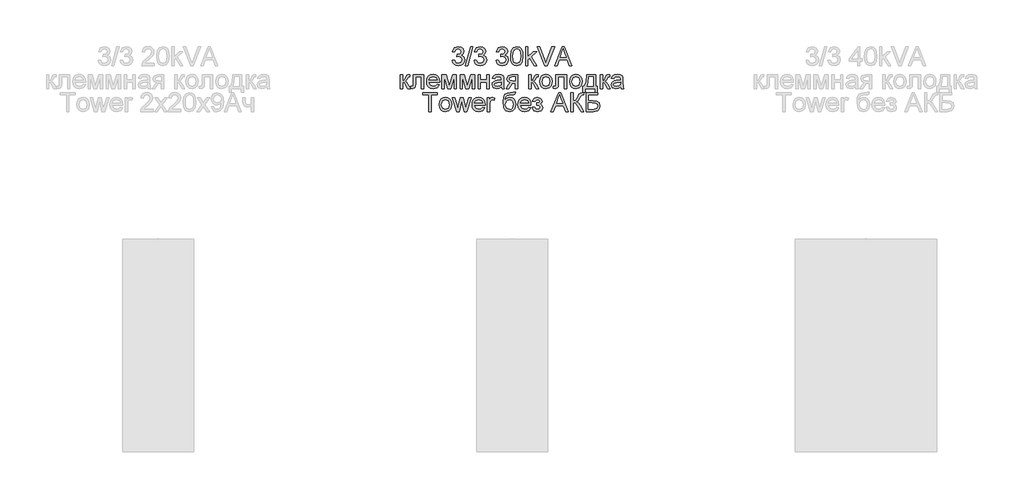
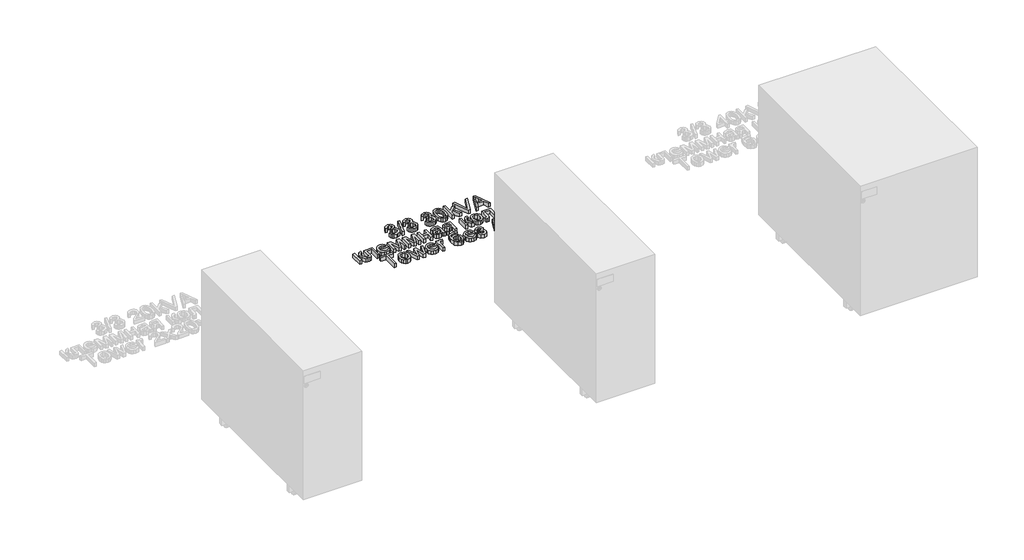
# One storey, part 31 of 74: 1 proxy.
"""IFC4 building model written with IfcOpenShell, lengths in millimetres."""

from ifc_helpers import new_model, si_unit, origin, origin_with_axes, place, context, project, spatial, polyline, outline, extrude, element, save

model = new_model("IFC4")

# Units and contexts
model_context = context("Model", 3, world=origin())
ifc_project = project(units=[si_unit("LENGTHUNIT", "METRE", prefix="MILLI")], contexts=[model_context])

# Site, building, storey
site = spatial("IfcSite", under=ifc_project)
building = spatial("IfcBuilding", under=site)
storey = spatial("IfcBuildingStorey", under=building, Name="Этаж 01", Elevation=0.0)

# Proxy
placement = place(None, origin())
element("IfcBuildingElementProxy", 1, Name="80 мм Arial", ObjectType="80 мм Arial", at=placement, inside=storey, context=model_context, shape_type="SweptSolid", body=[
    extrude(outline(polyline([(19098.3137414, -18752.4422861), (19108.3593724, -18751.1865822), (19113.9021278, -18761.7619633), (19124.2714949, -18764.9993249), (19136.475367, -18760.5455002), (19141.0076732, -18749.5188505), (19136.5146077, -18739.129863), (19125.0955506, -18735.0193948), (19118.0518367, -18736.1181357), (19119.1701979, -18726.0725047), (19120.7790685, -18726.1902269), (19132.1785053, -18723.3060321), (19137.2405615, -18714.4376235), (19133.5715518, -18706.5796641), (19124.114532, -18703.4698349), (19114.5397899, -18706.6090946), (19109.6150762, -18716.0268737), (19099.5694452, -18714.7711698), (19107.7903816, -18699.0160102), (19123.7613652, -18693.4242039), (19135.8769456, -18696.1808663), (19144.3529468, -18703.7150896), (19147.2861926, -18713.8490123), (19144.5000996, -18723.1098284), (19136.2595429, -18729.7611348), (19147.2077111, -18736.6282654), (19151.0533042, -18749.6954339), (19149.1305076, -18759.4860001), (19143.3621179, -18767.6676956), (19134.6555774, -18773.2006408), (19123.9183282, -18775.0449559), (19114.2062435, -18773.470421), (19106.2992332, -18768.7468161), (19100.8006236, -18761.5216138), (19098.3137414, -18752.4422861)])), origin_with_axes(), (0.0, 0.0, 1.0), 20.0),
    extrude(outline(polyline([(19154.8204158, -18773.789252), (19177.4230856, -18693.4242039), (19186.487698, -18693.4242039), (19163.8850282, -18773.789252), (19154.8204158, -18773.789252)])), origin_with_axes(), (0.0, 0.0, 1.0), 20.0),
    extrude(outline(polyline([(19191.2358282, -18752.4422861), (19201.2814593, -18751.1865822), (19206.8242147, -18761.7619633), (19217.1935818, -18764.9993249), (19229.3974539, -18760.5455002), (19233.9297601, -18749.5188505), (19229.4366946, -18739.129863), (19218.0176375, -18735.0193948), (19210.9739236, -18736.1181357), (19212.0922848, -18726.0725047), (19213.7011554, -18726.1902269), (19225.1005922, -18723.3060321), (19230.1626484, -18714.4376235), (19226.4936387, -18706.5796641), (19217.0366188, -18703.4698349), (19207.4618768, -18706.6090946), (19202.5371631, -18716.0268737), (19192.4915321, -18714.7711698), (19200.7124684, -18699.0160102), (19216.6834521, -18693.4242039), (19228.7990325, -18696.1808663), (19237.2750337, -18703.7150896), (19240.2082794, -18713.8490123), (19237.4221865, -18723.1098284), (19229.1816298, -18729.7611348), (19240.129798, -18736.6282654), (19243.9753911, -18749.6954339), (19242.0525945, -18759.4860001), (19236.2842048, -18767.6676956), (19227.5776643, -18773.2006408), (19216.8404151, -18775.0449559), (19207.1283304, -18773.470421), (19199.2213201, -18768.7468161), (19193.7227105, -18761.5216138), (19191.2358282, -18752.4422861)])), origin_with_axes(), (0.0, 0.0, 1.0), 20.0),
    extrude(outline(polyline([(19284.1579151, -18752.4422861), (19294.2035461, -18751.1865822), (19299.7463015, -18761.7619633), (19310.1156687, -18764.9993249), (19322.3195408, -18760.5455002), (19326.8518469, -18749.5188505), (19322.3587815, -18739.129863), (19310.9397244, -18735.0193948), (19303.8960104, -18736.1181357), (19305.0143717, -18726.0725047), (19306.6232423, -18726.1902269), (19318.0226791, -18723.3060321), (19323.0847353, -18714.4376235), (19319.4157256, -18706.5796641), (19309.9587057, -18703.4698349), (19300.3839637, -18706.6090946), (19295.45925, -18716.0268737), (19285.413619, -18714.7711698), (19293.6345553, -18699.0160102), (19309.605539, -18693.4242039), (19321.7211194, -18696.1808663), (19330.1971206, -18703.7150896), (19333.1303663, -18713.8490123), (19330.3442734, -18723.1098284), (19322.1037167, -18729.7611348), (19333.0518848, -18736.6282654), (19336.897478, -18749.6954339), (19334.9746814, -18759.4860001), (19329.2062917, -18767.6676956), (19320.4997512, -18773.2006408), (19309.762502, -18775.0449559), (19300.0504173, -18773.470421), (19292.143407, -18768.7468161), (19286.6447974, -18761.5216138), (19284.1579151, -18752.4422861)])), origin_with_axes(), (0.0, 0.0, 1.0), 20.0),
    extrude(outline(polyline([(19345.6874051, -18734.2542003), (19348.6402712, -18711.1315906), (19357.410578, -18697.7995471), (19372.0571865, -18693.4242039), (19383.7901696, -18696.0140932), (19391.8933837, -18703.4796451), (19396.6022732, -18715.3695912), (19398.4269679, -18734.2542003), (19395.5035323, -18757.2787081), (19386.7626561, -18770.6401821), (19372.0571865, -18775.0449559), (19361.619148, -18773.1319695), (19353.6925173, -18767.3930104), (19347.6886832, -18753.800997), (19345.6874051, -18734.2542003)]), holes=[polyline([(19355.7330361, -18734.2345799), (19356.9102585, -18750.0363379), (19360.4419257, -18759.1818843), (19372.0571865, -18764.9993249), (19383.6724474, -18759.1622639), (19387.2041145, -18750.0118124), (19388.3813369, -18734.2345799), (19387.2433553, -18718.7884412), (19383.8294104, -18709.5717709), (19378.5809606, -18704.9953189), (19371.9394643, -18703.4698349), (19360.5988886, -18708.8458171), (19356.9494992, -18718.6363833), (19355.7330361, -18734.2345799)])]), origin_with_axes(), (0.0, 0.0, 1.0), 20.0),
    extrude(outline(polyline([(19409.7283028, -18773.789252), (19409.7283028, -18693.4242039), (19419.7739338, -18693.4242039), (19419.7739338, -18736.608645), (19442.2981221, -18714.7711698), (19456.1893463, -18714.7711698), (19433.3904728, -18736.8833303), (19457.4450501, -18773.789252), (19445.712067, -18773.789252), (19426.1897958, -18743.8681831), (19419.7739338, -18750.0878413), (19419.7739338, -18773.789252), (19409.7283028, -18773.789252)])), origin_with_axes(), (0.0, 0.0, 1.0), 20.0),
    extrude(outline(polyline([(19532.2182919, -18773.789252), (19564.2976019, -18693.4242039), (19572.8520846, -18693.4242039), (19604.9313946, -18773.789252), (19594.3167727, -18773.789252), (19585.1148177, -18748.6751745), (19552.0152484, -18748.6751745), (19542.8329138, -18773.789252), (19532.2182919, -18773.789252)]), holes=[polyline([(19555.7038785, -18738.6295435), (19581.445808, -18738.6295435), (19574.2058903, -18718.8718278), (19568.5748432, -18703.4698349), (19563.5716481, -18717.145235), (19555.7038785, -18738.6295435)])]), origin_with_axes(), (0.0, 0.0, 1.0), 20.0),
    extrude(outline(polyline([(19491.2313326, -18773.789252), (19459.2501245, -18693.4242039), (19470.0020889, -18693.4242039), (19491.4079159, -18751.3239249), (19495.7440184, -18764.3714729), (19500.0212597, -18751.3239249), (19521.4859479, -18693.4242039), (19532.2379123, -18693.4242039), (19501.6105099, -18773.789252), (19491.2313326, -18773.789252)])), origin_with_axes(), (0.0, 0.0, 1.0), 20.0),
    extrude(outline(polyline([(18933.1886815, -18812.3510241), (18978.3940211, -18812.3510241), (18978.3940211, -18871.3102452), (18968.3483901, -18871.3102452), (18968.3483901, -18822.3966551), (18943.2343126, -18822.3966551), (18943.2343126, -18850.5518905), (18942.5574097, -18863.5405774), (18938.839349, -18869.0244717), (18930.0494219, -18871.3691063), (18921.8873467, -18870.8589766), (18921.8873467, -18861.3234753), (18926.3804121, -18861.3234753), (18930.9225285, -18860.7054335), (18932.737413, -18858.7433962), (18933.1886815, -18849.9828996), (18933.1886815, -18812.3510241)])), origin_with_axes(), (0.0, 0.0, 1.0), 20.0),
    extrude(outline(polyline([(18879.1934148, -18812.3510241), (18889.2390459, -18812.3510241), (18889.2390459, -18837.4651016), (18895.9688338, -18835.6600273), (18901.4821587, -18825.1435073), (18906.0635158, -18816.0690848), (18910.1053126, -18813.1162186), (18917.4531423, -18812.3510241), (18919.3759389, -18812.3510241), (18919.3759389, -18822.4555162), (18916.6683274, -18822.3966551), (18911.7632341, -18823.4561553), (18908.3100485, -18830.068221), (18904.2584414, -18837.219847), (18898.5783434, -18840.7220836), (18904.9157239, -18844.6314429), (18911.1353822, -18852.8670945), (18921.8873467, -18871.3691063), (18910.4682895, -18871.3691063), (18899.9321492, -18853.259502), (18894.6346485, -18845.5977463), (18889.2390459, -18843.743621), (18889.2390459, -18871.3691063), (18879.1934148, -18871.3691063), (18879.1934148, -18812.3510241)])), origin_with_axes(), (0.0, 0.0, 1.0), 20.0),
    extrude(outline(polyline([(19034.7829733, -18853.789252), (19044.6324006, -18855.0449559), (19035.4206355, -18868.0140225), (19018.2626192, -18872.6248102), (19006.4756801, -18870.6357949), (18997.4061626, -18864.6687489), (18991.6230577, -18855.1111747), (18989.695356, -18842.3505745), (18991.642678, -18829.1607787), (18997.4846441, -18819.2966362), (19006.4315342, -18813.1456492), (19017.6936284, -18811.0953202), (19028.6050084, -18813.1407441), (19037.3238116, -18819.2770158), (19043.0406979, -18829.121538), (19044.9463266, -18842.2917134), (19044.8874655, -18844.9993249), (18999.740987, -18844.9993249), (19005.5191869, -18858.046873), (19018.4588229, -18862.5791792), (19028.3082502, -18860.4797992), (19034.7829733, -18853.789252)]), holes=[polyline([(18999.740987, -18834.9536939), (19034.9006956, -18834.9536939), (19030.8785191, -18825.8498408), (19017.6543876, -18821.1409512), (19005.2837424, -18824.8982527), (18999.740987, -18834.9536939)])]), origin_with_axes(), (0.0, 0.0, 1.0), 20.0),
    extrude(outline(polyline([(19054.9919576, -18812.3510241), (19072.2775063, -18812.3510241), (19085.5997396, -18859.5968825), (19099.9618527, -18812.3510241), (19116.5214476, -18812.3510241), (19116.5214476, -18871.3691063), (19106.4758166, -18871.3691063), (19106.4758166, -18823.8485627), (19092.035222, -18871.3691063), (19078.8503313, -18871.3691063), (19065.0375886, -18821.5725994), (19065.0375886, -18871.3691063), (19054.9919576, -18871.3691063), (19054.9919576, -18812.3510241)])), origin_with_axes(), (0.0, 0.0, 1.0), 20.0),
    extrude(outline(polyline([(19131.5898941, -18812.3510241), (19148.8754428, -18812.3510241), (19162.1976761, -18859.5968825), (19176.5597892, -18812.3510241), (19193.1193841, -18812.3510241), (19193.1193841, -18871.3691063), (19183.073753, -18871.3691063), (19183.073753, -18823.8485627), (19168.6331585, -18871.3691063), (19155.4482678, -18871.3691063), (19141.6355251, -18821.5725994), (19141.6355251, -18871.3691063), (19131.5898941, -18871.3691063), (19131.5898941, -18812.3510241)])), origin_with_axes(), (0.0, 0.0, 1.0), 20.0),
    extrude(outline(polyline([(19208.1878306, -18812.3510241), (19218.2334616, -18812.3510241), (19218.2334616, -18834.9536939), (19244.603243, -18834.9536939), (19244.603243, -18812.3510241), (19254.648874, -18812.3510241), (19254.648874, -18871.3691063), (19244.603243, -18871.3691063), (19244.603243, -18844.9993249), (19218.2334616, -18844.9993249), (19218.2334616, -18871.3691063), (19208.1878306, -18871.3691063), (19208.1878306, -18812.3510241)])), origin_with_axes(), (0.0, 0.0, 1.0), 20.0),
    extrude(outline(polyline([(19307.3884369, -18863.834883), (19297.6469216, -18870.6431525), (19286.885147, -18872.6248102), (19272.2973996, -18867.8570595), (19267.2059128, -18855.6728078), (19269.1287094, -18847.7265567), (19274.1809554, -18841.9581671), (19281.2148592, -18838.6619444), (19289.9066844, -18837.1511757), (19307.3295757, -18833.69799), (19307.3884369, -18831.4612675), (19304.6219643, -18824.0447664), (19293.5168331, -18821.1409512), (19283.3534798, -18823.073558), (19278.5072477, -18829.9308784), (19268.4616167, -18828.6751745), (19272.8075293, -18818.864988), (19281.5582157, -18813.1162186), (19294.8117777, -18811.0953202), (19306.9862192, -18812.8807742), (19313.86316, -18817.3640294), (19316.9435585, -18824.1821091), (19317.4340679, -18832.9720362), (19317.4340679, -18845.4702138), (19317.9441976, -18862.9225357), (19319.9454756, -18871.3691063), (19309.8998446, -18871.3691063), (19307.3884369, -18863.834883)]), holes=[polyline([(19307.3884369, -18843.743621), (19291.1820087, -18846.8240196), (19282.5392344, -18848.4525105), (19278.6249699, -18851.1012609), (19277.2515438, -18854.9664744), (19280.2436507, -18860.4013178), (19289.0237677, -18862.5791792), (19299.1871209, -18860.1756835), (19305.7403255, -18854.3582428), (19307.3295757, -18846.5885751), (19307.3884369, -18843.743621)])]), origin_with_axes(), (0.0, 0.0, 1.0), 20.0),
    extrude(outline(polyline([(19376.4521501, -18812.3510241), (19376.4521501, -18871.3691063), (19366.4065191, -18871.3691063), (19366.4065191, -18848.7664365), (19360.932435, -18848.7664365), (19353.4766932, -18850.0417608), (19346.47222, -18858.6158638), (19338.4671078, -18871.3691063), (19326.8518469, -18871.3691063), (19336.9367187, -18855.2411596), (19345.4912014, -18846.8828807), (19333.797459, -18840.7809447), (19329.9911066, -18829.4011283), (19335.1905055, -18817.079534), (19350.2393317, -18812.3510241), (19376.4521501, -18812.3510241)]), holes=[polyline([(19366.4065191, -18822.3966551), (19353.1627672, -18822.3966551), (19342.4402334, -18824.7216693), (19340.0367377, -18830.1663228), (19343.578215, -18836.6508561), (19356.1254436, -18838.7208055), (19366.4065191, -18838.7208055), (19366.4065191, -18822.3966551)])]), origin_with_axes(), (0.0, 0.0, 1.0), 20.0),
    extrude(outline(polyline([(19422.9131935, -18812.3510241), (19432.9588245, -18812.3510241), (19432.9588245, -18837.4651016), (19439.6886125, -18835.6600273), (19445.2019373, -18825.1435073), (19449.7832945, -18816.0690848), (19453.8250913, -18813.1162186), (19461.172921, -18812.3510241), (19463.0957176, -18812.3510241), (19463.0957176, -18822.4555162), (19460.3881061, -18822.3966551), (19455.4830128, -18823.4561553), (19452.0298272, -18830.068221), (19447.9782201, -18837.219847), (19442.2981221, -18840.7220836), (19448.6355026, -18844.6314429), (19454.8551609, -18852.8670945), (19465.6071253, -18871.3691063), (19454.1880682, -18871.3691063), (19443.6519279, -18853.259502), (19438.3544271, -18845.5977463), (19432.9588245, -18843.743621), (19432.9588245, -18871.3691063), (19422.9131935, -18871.3691063), (19422.9131935, -18812.3510241)])), origin_with_axes(), (0.0, 0.0, 1.0), 20.0),
    extrude(outline(polyline([(19469.374237, -18841.8600652), (19471.5471933, -18827.6303896), (19478.0660622, -18817.6289044), (19486.1202254, -18812.7287163), (19495.7636388, -18811.0953202), (19506.3169469, -18813.0843355), (19514.7463497, -18819.0513815), (19520.2719373, -18828.5255691), (19522.1137998, -18841.0360095), (19518.8568179, -18858.9101694), (19509.3703675, -18869.0244717), (19495.7636388, -18872.6248102), (19485.0827982, -18870.6431525), (19476.6632056, -18864.6981795), (19471.1964791, -18855.0253355), (19469.374237, -18841.8600652)]), holes=[polyline([(19479.419868, -18841.8404448), (19484.0698964, -18857.4092109), (19495.7636388, -18862.5791792), (19507.4181404, -18857.3797803), (19512.0681688, -18841.5265189), (19507.3887098, -18826.3109195), (19495.7636388, -18821.1409512), (19484.0698964, -18826.2912992), (19479.419868, -18841.8404448)])]), origin_with_axes(), (0.0, 0.0, 1.0), 20.0),
    extrude(outline(polyline([(19538.4379502, -18812.3510241), (19583.6432898, -18812.3510241), (19583.6432898, -18871.3102452), (19573.5976588, -18871.3102452), (19573.5976588, -18822.3966551), (19548.4835812, -18822.3966551), (19548.4835812, -18850.5518905), (19547.8066783, -18863.5405774), (19544.0886176, -18869.0244717), (19535.2986905, -18871.3691063), (19527.1366153, -18870.8589766), (19527.1366153, -18861.3234753), (19531.6296807, -18861.3234753), (19536.1717971, -18860.7054335), (19537.9866816, -18858.7433962), (19538.4379502, -18849.9828996), (19538.4379502, -18812.3510241)])), origin_with_axes(), (0.0, 0.0, 1.0), 20.0),
    extrude(outline(polyline([(19596.2003285, -18841.8600652), (19598.3732849, -18827.6303896), (19604.8921538, -18817.6289044), (19612.946317, -18812.7287163), (19622.5897303, -18811.0953202), (19633.1430385, -18813.0843355), (19641.5724413, -18819.0513815), (19647.0980288, -18828.5255691), (19648.9398914, -18841.0360095), (19645.6829094, -18858.9101694), (19636.1964591, -18869.0244717), (19622.5897303, -18872.6248102), (19611.9088897, -18870.6431525), (19603.4892971, -18864.6981795), (19598.0225707, -18855.0253355), (19596.2003285, -18841.8600652)]), holes=[polyline([(19606.2459596, -18841.8404448), (19610.895988, -18857.4092109), (19622.5897303, -18862.5791792), (19634.2442319, -18857.3797803), (19638.8942603, -18841.5265189), (19634.2148014, -18826.3109195), (19622.5897303, -18821.1409512), (19610.895988, -18826.2912992), (19606.2459596, -18841.8404448)])]), origin_with_axes(), (0.0, 0.0, 1.0), 20.0),
    extrude(outline(polyline([(19669.0311534, -18812.3510241), (19706.7022697, -18812.3510241), (19706.7022697, -18861.3234753), (19714.236493, -18861.3234753), (19714.236493, -18887.6932567), (19704.1908619, -18887.6932567), (19704.1908619, -18871.3691063), (19662.752634, -18871.3691063), (19662.752634, -18887.6932567), (19652.707003, -18887.6932567), (19652.707003, -18861.3234753), (19658.9855224, -18861.3234753), (19666.7453799, -18842.164181), (19669.0311534, -18812.3510241)]), holes=[polyline([(19677.8210805, -18822.3966551), (19675.4666358, -18845.2838203), (19670.2868573, -18861.3234753), (19696.6566387, -18861.3234753), (19696.6566387, -18822.3966551), (19677.8210805, -18822.3966551)])]), origin_with_axes(), (0.0, 0.0, 1.0), 20.0),
    extrude(outline(polyline([(19725.5378279, -18812.3510241), (19735.5834589, -18812.3510241), (19735.5834589, -18837.4651016), (19742.3132468, -18835.6600273), (19747.8265717, -18825.1435073), (19752.4079288, -18816.0690848), (19756.4497256, -18813.1162186), (19763.7975554, -18812.3510241), (19765.7203519, -18812.3510241), (19765.7203519, -18822.4555162), (19763.0127404, -18822.3966551), (19758.1076472, -18823.4561553), (19754.6544615, -18830.068221), (19750.6028545, -18837.219847), (19744.9227565, -18840.7220836), (19751.260137, -18844.6314429), (19757.4797952, -18852.8670945), (19768.2317597, -18871.3691063), (19756.8127025, -18871.3691063), (19746.2765622, -18853.259502), (19740.9790615, -18845.5977463), (19735.5834589, -18843.743621), (19735.5834589, -18871.3691063), (19725.5378279, -18871.3691063), (19725.5378279, -18812.3510241)])), origin_with_axes(), (0.0, 0.0, 1.0), 20.0),
    extrude(outline(polyline([(19812.1813954, -18863.834883), (19802.4398801, -18870.6431525), (19791.6781055, -18872.6248102), (19777.0903581, -18867.8570595), (19771.9988713, -18855.6728078), (19773.9216679, -18847.7265567), (19778.9739139, -18841.9581671), (19786.0078177, -18838.6619444), (19794.6996429, -18837.1511757), (19812.1225342, -18833.69799), (19812.1813954, -18831.4612675), (19809.4149228, -18824.0447664), (19798.3097916, -18821.1409512), (19788.1464383, -18823.073558), (19783.3002062, -18829.9308784), (19773.2545752, -18828.6751745), (19777.6004878, -18818.864988), (19786.3511742, -18813.1162186), (19799.6047362, -18811.0953202), (19811.7791777, -18812.8807742), (19818.6561185, -18817.3640294), (19821.736517, -18824.1821091), (19822.2270264, -18832.9720362), (19822.2270264, -18845.4702138), (19822.7371561, -18862.9225357), (19824.7384341, -18871.3691063), (19814.6928031, -18871.3691063), (19812.1813954, -18863.834883)]), holes=[polyline([(19812.1813954, -18843.743621), (19795.9749672, -18846.8240196), (19787.3321929, -18848.4525105), (19783.4179284, -18851.1012609), (19782.0445023, -18854.9664744), (19785.0366092, -18860.4013178), (19793.8167262, -18862.5791792), (19803.9800794, -18860.1756835), (19810.533284, -18854.3582428), (19812.1225342, -18846.5885751), (19812.1813954, -18843.743621)])]), origin_with_axes(), (0.0, 0.0, 1.0), 20.0),
    extrude(outline(polyline([(18999.1131351, -18968.9489606), (18999.1131351, -18898.6295435), (18972.7433537, -18898.6295435), (18972.7433537, -18888.5839125), (19035.5285475, -18888.5839125), (19035.5285475, -18898.6295435), (19009.1587661, -18898.6295435), (19009.1587661, -18968.9489606), (18999.1131351, -18968.9489606)])), origin_with_axes(), (0.0, 0.0, 1.0), 20.0),
    extrude(outline(polyline([(19043.0627708, -18939.4399195), (19045.2357271, -18925.2102439), (19051.754596, -18915.2087587), (19059.8087592, -18910.3085705), (19069.4521726, -18908.6751745), (19080.0054807, -18910.6641898), (19088.4348835, -18916.6312358), (19093.9604711, -18926.1054234), (19095.8023336, -18938.6158638), (19092.5453517, -18956.4900237), (19083.0589013, -18966.604326), (19069.4521726, -18970.2046645), (19058.771332, -18968.2230068), (19050.3517394, -18962.2780337), (19044.8850129, -18952.6051898), (19043.0627708, -18939.4399195)]), holes=[polyline([(19053.1084018, -18939.4202991), (19057.7584302, -18954.9890651), (19069.4521726, -18960.1590334), (19081.1066742, -18954.9596346), (19085.7567026, -18939.1063731), (19081.0772436, -18923.8907738), (19069.4521726, -18918.7208055), (19057.7584302, -18923.8711534), (19053.1084018, -18939.4202991)])]), origin_with_axes(), (0.0, 0.0, 1.0), 20.0),
    extrude(outline(polyline([(19116.8942347, -18968.9489606), (19098.9415933, -18909.9308784), (19109.3796318, -18909.9308784), (19119.5626054, -18944.3646331), (19122.6037632, -18956.666607), (19125.0955506, -18944.8159017), (19133.1987647, -18909.9308784), (19145.1671923, -18909.9308784), (19153.2311656, -18944.7177998), (19155.4482678, -18955.4501439), (19158.6267682, -18944.1291886), (19168.8293622, -18909.9308784), (19179.3066414, -18909.9308784), (19161.2166574, -18968.9489606), (19149.0716465, -18968.9489606), (19141.3608399, -18934.3386225), (19139.1241174, -18923.5474173), (19129.1765882, -18968.9489606), (19116.8942347, -18968.9489606)])), origin_with_axes(), (0.0, 0.0, 1.0), 20.0),
    extrude(outline(polyline([(19227.5335184, -18951.3691063), (19237.3829457, -18952.6248102), (19228.1711806, -18965.5938768), (19211.0131643, -18970.2046645), (19199.2262252, -18968.2156491), (19190.1567077, -18962.2486032), (19184.3736028, -18952.6910289), (19182.4459011, -18939.9304288), (19184.3932231, -18926.740633), (19190.2351892, -18916.8764904), (19199.1820793, -18910.7255035), (19210.4441735, -18908.6751745), (19221.3555535, -18910.7205984), (19230.0743567, -18916.8568701), (19235.791243, -18926.7013923), (19237.6968717, -18939.8715677), (19237.6380106, -18942.5791792), (19192.4915321, -18942.5791792), (19198.269732, -18955.6267273), (19211.209368, -18960.1590334), (19221.0587953, -18958.0596535), (19227.5335184, -18951.3691063)]), holes=[polyline([(19192.4915321, -18932.5335481), (19227.6512407, -18932.5335481), (19223.6290642, -18923.429695), (19210.4049327, -18918.7208055), (19198.0342875, -18922.4781069), (19192.4915321, -18932.5335481)])]), origin_with_axes(), (0.0, 0.0, 1.0), 20.0),
    extrude(outline(polyline([(19247.7425027, -18968.9489606), (19247.7425027, -18909.9308784), (19256.5324298, -18909.9308784), (19256.5324298, -18918.6619444), (19262.7717085, -18910.6175914), (19269.0502279, -18908.6751745), (19279.1350996, -18911.7751934), (19275.7800158, -18920.7809447), (19268.7166815, -18918.7208055), (19263.0365835, -18920.7024632), (19259.4166247, -18926.1961676), (19257.7881337, -18937.9291507), (19257.7881337, -18968.9489606), (19247.7425027, -18968.9489606)])), origin_with_axes(), (0.0, 0.0, 1.0), 20.0),
    extrude(outline(polyline([(19358.2444439, -18887.3282086), (19367.034371, -18887.3282086), (19364.4444818, -18895.1665476), (19359.3235644, -18898.0016915), (19347.0215905, -18898.6295435), (19330.4521854, -18900.9447475), (19324.0951845, -18908.3612485), (19321.9467537, -18921.4872781), (19330.6483891, -18911.8732953), (19341.8614324, -18908.6751745), (19352.3141861, -18910.7083356), (19360.7950924, -18916.8078191), (19366.4163293, -18926.3752035), (19368.2900749, -18938.8120675), (19364.5720142, -18956.0976162), (19355.7526565, -18966.5258445), (19341.8614324, -18970.2046645), (19325.9983607, -18965.4663444), (19317.3163456, -18953.3409538), (19314.2948082, -18927.6088345), (19316.2004369, -18908.3342705), (19321.9173231, -18896.5792145), (19331.5877145, -18890.582738), (19345.3538588, -18888.5839125), (19356.5374714, -18888.3582782), (19358.2444439, -18887.3282086)]), holes=[polyline([(19358.2444439, -18938.4981416), (19353.888721, -18924.2635609), (19348.6402712, -18920.1064944), (19341.6063675, -18918.7208055), (19334.2732531, -18920.1849758), (19328.8335046, -18924.5774869), (19324.3404392, -18940.2247344), (19329.3043936, -18955.0283059), (19341.5475064, -18960.1590334), (19348.2821994, -18958.6752427), (19353.6140358, -18954.2238706), (19358.2444439, -18938.4981416)])]), origin_with_axes(), (0.0, 0.0, 1.0), 20.0),
    extrude(outline(polyline([(19422.1676194, -18951.3691063), (19432.0170466, -18952.6248102), (19422.8052815, -18965.5938768), (19405.6472652, -18970.2046645), (19393.8603261, -18968.2156491), (19384.7908086, -18962.2486032), (19379.0077037, -18952.6910289), (19377.080002, -18939.9304288), (19379.027324, -18926.740633), (19384.8692901, -18916.8764904), (19393.8161803, -18910.7255035), (19405.0782744, -18908.6751745), (19415.9896544, -18910.7205984), (19424.7084577, -18916.8568701), (19430.4253439, -18926.7013923), (19432.3309726, -18939.8715677), (19432.2721115, -18942.5791792), (19387.125633, -18942.5791792), (19392.9038329, -18955.6267273), (19405.843469, -18960.1590334), (19415.6928962, -18958.0596535), (19422.1676194, -18951.3691063)]), holes=[polyline([(19387.125633, -18932.5335481), (19422.2853416, -18932.5335481), (19418.2631651, -18923.429695), (19405.0390337, -18918.7208055), (19392.6683884, -18922.4781069), (19387.125633, -18932.5335481)])]), origin_with_axes(), (0.0, 0.0, 1.0), 20.0),
    extrude(outline(polyline([(19456.1893463, -18942.5791792), (19456.1893463, -18932.5335481), (19464.115977, -18932.1411407), (19468.1185331, -18930.051571), (19470.0020889, -18925.6860379), (19467.480871, -18920.6141715), (19460.9767173, -18918.7208055), (19454.2567395, -18920.6043613), (19449.9108269, -18926.2550288), (19438.609492, -18924.9993249), (19446.1633356, -18912.7562121), (19459.9564579, -18908.6751745), (19474.7109784, -18913.6489391), (19480.0477199, -18925.529075), (19478.1494488, -18931.7683536), (19472.4546355, -18936.5949654), (19479.0961318, -18942.8538644), (19481.3034238, -18951.8596156), (19479.9030197, -18959.2540437), (19475.7018073, -18965.1131776), (19460.0349394, -18970.2046645), (19444.5838956, -18965.4957749), (19437.3537881, -18951.3691063), (19448.655123, -18950.1134024), (19453.1874292, -18957.5299034), (19460.9963377, -18960.1590334), (19468.3343572, -18957.6378155), (19471.2577928, -18951.1925229), (19469.4429083, -18945.9146426), (19465.5776948, -18943.0893089), (19458.1513836, -18942.520318), (19456.1893463, -18942.5791792)])), origin_with_axes(), (0.0, 0.0, 1.0), 20.0),
    extrude(outline(polyline([(19517.1498454, -18968.9489606), (19549.2291554, -18888.5839125), (19557.7836381, -18888.5839125), (19589.862948, -18968.9489606), (19579.2483262, -18968.9489606), (19570.0463712, -18943.834883), (19536.9468018, -18943.834883), (19527.7644672, -18968.9489606), (19517.1498454, -18968.9489606)]), holes=[polyline([(19540.635432, -18933.789252), (19566.3773615, -18933.789252), (19559.1374438, -18914.0315363), (19553.5063967, -18898.6295435), (19548.5032016, -18912.3049435), (19540.635432, -18933.789252)])]), origin_with_axes(), (0.0, 0.0, 1.0), 20.0),
    extrude(outline(polyline([(19600.5952921, -18888.5839125), (19610.6409231, -18888.5839125), (19610.6409231, -18923.743621), (19621.8735867, -18921.0850605), (19629.7119257, -18907.6352947), (19635.2546811, -18896.4026311), (19641.5332005, -18890.8402554), (19650.5095212, -18888.5839125), (19657.1019666, -18888.7016347), (19657.1019666, -18898.7472657), (19654.8848644, -18898.6884046), (19652.6677622, -18898.6295435), (19644.819613, -18901.0428494), (19638.8550196, -18911.382786), (19631.7426344, -18923.9790655), (19624.8068325, -18928.1385846), (19632.5617849, -18932.6807009), (19640.2088253, -18942.147531), (19657.1019666, -18968.9489606), (19645.447465, -18968.9489606), (19631.1638334, -18946.30705), (19621.1083922, -18934.4857753), (19610.6409231, -18931.2778443), (19610.6409231, -18968.9489606), (19600.5952921, -18968.9489606), (19600.5952921, -18888.5839125)])), origin_with_axes(), (0.0, 0.0, 1.0), 20.0),
    extrude(outline(polyline([(19665.8918937, -18888.5839125), (19716.1200488, -18888.5839125), (19716.1200488, -18898.6295435), (19675.9375247, -18898.6295435), (19675.9375247, -18922.4879171), (19694.7534625, -18922.4879171), (19711.3326777, -18924.5284359), (19721.2017254, -18932.2392426), (19724.9099759, -18945.4241333), (19722.2710357, -18956.8726209), (19714.3934559, -18965.5742564), (19696.5585368, -18968.9489606), (19665.8918937, -18968.9489606), (19665.8918937, -18888.5839125)]), holes=[polyline([(19675.9375247, -18958.9033296), (19697.461074, -18958.9033296), (19710.5086221, -18955.5874865), (19714.8643449, -18945.6399574), (19712.3725575, -18937.7721878), (19705.4367556, -18933.5734279), (19690.2996378, -18932.5335481), (19675.9375247, -18932.5335481), (19675.9375247, -18958.9033296)])]), origin_with_axes(), (0.0, 0.0, 1.0), 20.0),
])

save(model, "model.ifc")
